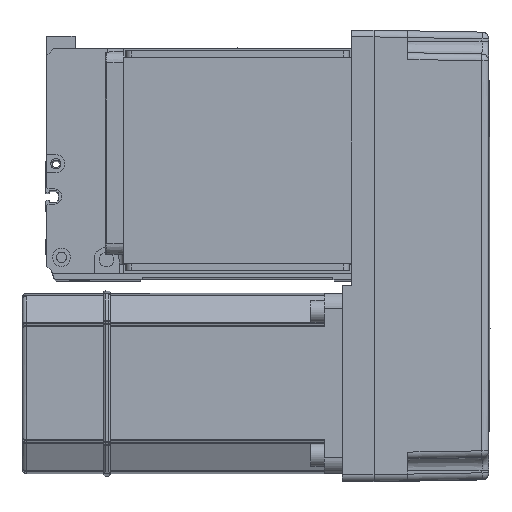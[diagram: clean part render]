
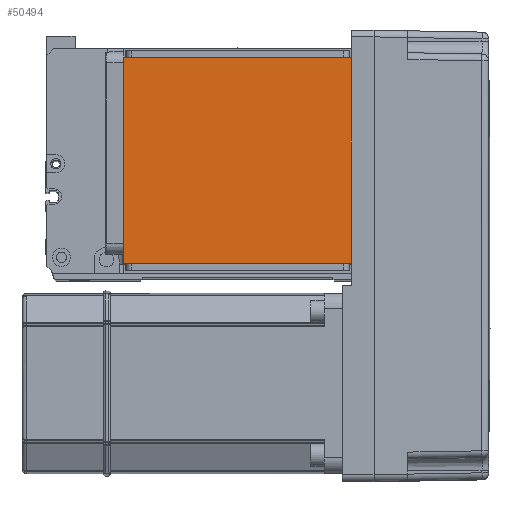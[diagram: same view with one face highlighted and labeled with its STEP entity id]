
A CAD part, top view. The second image highlights one B-rep face of the part: STEP entity #50494.
In plain terms, the highlighted planar face has unit normal (0, 0, 1).
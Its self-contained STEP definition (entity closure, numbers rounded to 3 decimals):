
#368 = EDGE_CURVE ( 'NONE', #48307, #51148, #3246, .T. ) ;
#1263 = EDGE_CURVE ( 'NONE', #32350, #33290, #11896, .T. ) ;
#3246 = LINE ( 'NONE', #4690, #33529 ) ;
#4057 = ORIENTED_EDGE ( 'NONE', *, *, #368, .T. ) ;
#4270 = EDGE_CURVE ( 'NONE', #48307, #33290, #30511, .T. ) ;
#4690 = CARTESIAN_POINT ( 'NONE',  ( -50.5, 122., 115. ) ) ;
#8231 = ORIENTED_EDGE ( 'NONE', *, *, #4270, .F. ) ;
#8522 = DIRECTION ( 'NONE',  ( -1., 0., 0. ) ) ;
#9188 = CARTESIAN_POINT ( 'NONE',  ( 50.5, 20., 115. ) ) ;
#11896 = LINE ( 'NONE', #55131, #37459 ) ;
#12597 = ORIENTED_EDGE ( 'NONE', *, *, #49761, .F. ) ;
#17172 = AXIS2_PLACEMENT_3D ( 'NONE', #23831, #53858, #28143 ) ;
#17896 = LINE ( 'NONE', #42962, #29305 ) ;
#22838 = CARTESIAN_POINT ( 'NONE',  ( 50.5, 111.5, 115. ) ) ;
#23831 = CARTESIAN_POINT ( 'NONE',  ( 0., 0., 115. ) ) ;
#25549 = CARTESIAN_POINT ( 'NONE',  ( -70.004, 111.5, 115. ) ) ;
#28143 = DIRECTION ( 'NONE',  ( 1., 0., 0. ) ) ;
#28633 = FACE_OUTER_BOUND ( 'NONE', #52840, .T. ) ;
#29305 = VECTOR ( 'NONE', #8522, 1000. ) ;
#29599 = DIRECTION ( 'NONE',  ( 0., 1., 0. ) ) ;
#30511 = LINE ( 'NONE', #25549, #39204 ) ;
#30692 = DIRECTION ( 'NONE',  ( 0., -1., 0. ) ) ;
#32107 = PLANE ( 'NONE',  #17172 ) ;
#32350 = VERTEX_POINT ( 'NONE', #9188 ) ;
#33290 = VERTEX_POINT ( 'NONE', #22838 ) ;
#33529 = VECTOR ( 'NONE', #30692, 1000. ) ;
#33803 = DIRECTION ( 'NONE',  ( 1., 0., 0. ) ) ;
#35195 = CARTESIAN_POINT ( 'NONE',  ( -50.5, 20., 115. ) ) ;
#37459 = VECTOR ( 'NONE', #29599, 1000. ) ;
#39204 = VECTOR ( 'NONE', #33803, 1000. ) ;
#42929 = CARTESIAN_POINT ( 'NONE',  ( -50.5, 111.5, 115. ) ) ;
#42962 = CARTESIAN_POINT ( 'NONE',  ( -70.004, 20., 115. ) ) ;
#43927 = ORIENTED_EDGE ( 'NONE', *, *, #1263, .T. ) ;
#48307 = VERTEX_POINT ( 'NONE', #42929 ) ;
#49761 = EDGE_CURVE ( 'NONE', #32350, #51148, #17896, .T. ) ;
#50494 = ADVANCED_FACE ( 'NONE', ( #28633 ), #32107, .T. ) ;
#51148 = VERTEX_POINT ( 'NONE', #35195 ) ;
#52840 = EDGE_LOOP ( 'NONE', ( #8231, #4057, #12597, #43927 ) ) ;
#53858 = DIRECTION ( 'NONE',  ( 0., 0., 1. ) ) ;
#55131 = CARTESIAN_POINT ( 'NONE',  ( 50.5, 122., 115. ) ) ;
